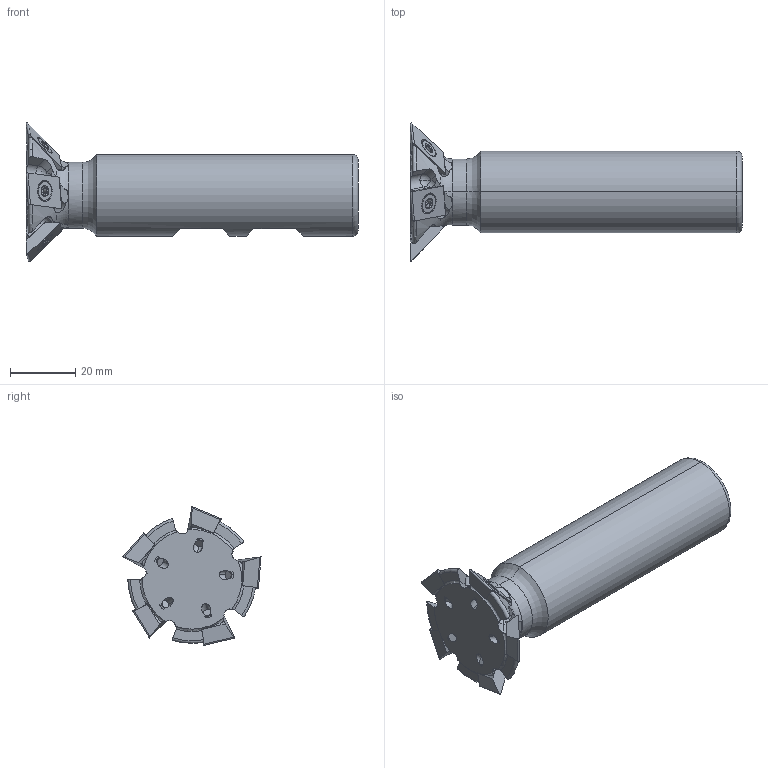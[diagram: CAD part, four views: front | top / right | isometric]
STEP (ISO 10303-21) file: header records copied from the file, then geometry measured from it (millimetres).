
FILE_DESCRIPTION (( 'STEP AP214' ), '1' );
FILE_NAME ('DC1750-M.STEP', '2018-01-26T21:25:52', ( '' ), ( '' ), 'SwSTEP 2.0', 'SolidWorks 2017', '' );
FILE_SCHEMA (( 'AUTOMOTIVE_DESIGN' ));
Length unit declared in the file: inch
Products named in the file (4): DC1750-S REV B REMODEL_NO THREADS; DC1750M REV A 5 FLUTE INSERT DOVETAIL CUTTER; DC1750-M; DC1750-B REV A
Assembly tree (11 placements, depth 2):
  DC1750-M
    DC1750M REV A 5 FLUTE INSERT DOVETAIL CUTTER
    DC1750-B REV A  x5
    DC1750-S REV B REMODEL_NO THREADS  x5
Bounding box: 101.6 x 42.27 x 42.42 mm (x, y, z)
Volume: 49486 mm3; surface area: 12760.9 mm2
Topology: 11 solids, 11 shells, 483 faces, 1212 edges, 708 vertices
Faces by surface type: cylinder 170, cone 150, plane 113, torus 41, sphere 9
Entity records: 7729 total; most frequent: CARTESIAN_POINT 2221, ORIENTED_EDGE 1156, DIRECTION 1009, EDGE_CURVE 578, AXIS2_PLACEMENT_3D 392, VERTEX_POINT 366, EDGE_LOOP 232, LINE 225
